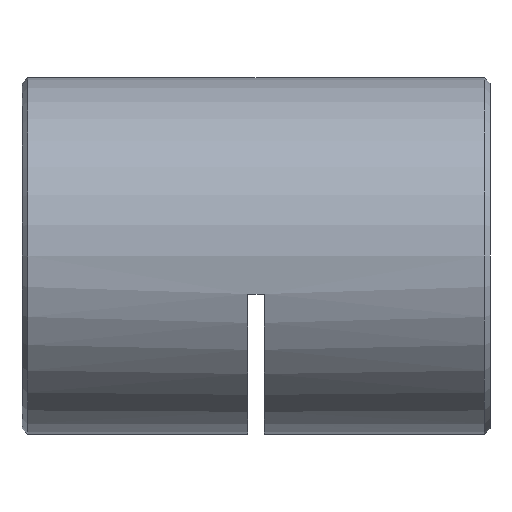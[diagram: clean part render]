
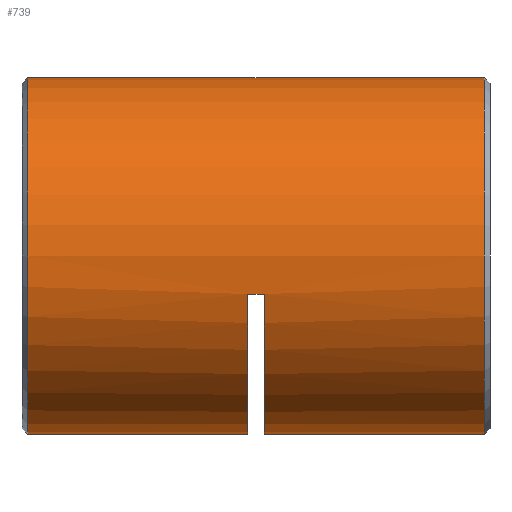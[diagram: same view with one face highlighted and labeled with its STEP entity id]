
A CAD part, left-side view. The second image highlights one B-rep face of the part: STEP entity #739.
In plain terms, the highlighted cylindrical face has radius 16 mm (diameter 32 mm), a partial arc.
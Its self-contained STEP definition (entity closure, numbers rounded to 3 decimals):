
#172 = FACE_OUTER_BOUND ( 'NONE', #2926, .T. ) ;
#244 = CARTESIAN_POINT ( 'NONE',  ( 0., 22., -16. ) ) ;
#276 = ORIENTED_EDGE ( 'NONE', *, *, #5539, .T. ) ;
#283 = DIRECTION ( 'NONE',  ( 0., -1., 0. ) ) ;
#306 = VERTEX_POINT ( 'NONE', #1523 ) ;
#535 = AXIS2_PLACEMENT_3D ( 'NONE', #6163, #1756, #4742 ) ;
#675 = CARTESIAN_POINT ( 'NONE',  ( 0., 41.75, -16. ) ) ;
#705 = ORIENTED_EDGE ( 'NONE', *, *, #2512, .T. ) ;
#711 = AXIS2_PLACEMENT_3D ( 'NONE', #6032, #1124, #3063 ) ;
#734 = DIRECTION ( 'NONE',  ( 0., 0., -1. ) ) ;
#739 = ADVANCED_FACE ( 'NONE', ( #172 ), #6175, .T. ) ;
#781 = CARTESIAN_POINT ( 'NONE',  ( 0., 42.5, -16. ) ) ;
#807 = VERTEX_POINT ( 'NONE', #2455 ) ;
#902 = ORIENTED_EDGE ( 'NONE', *, *, #5451, .T. ) ;
#944 = DIRECTION ( 'NONE',  ( 0., -1., 0. ) ) ;
#969 = DIRECTION ( 'NONE',  ( 0., 0., -1. ) ) ;
#1023 = ORIENTED_EDGE ( 'NONE', *, *, #3494, .F. ) ;
#1055 = AXIS2_PLACEMENT_3D ( 'NONE', #5127, #283, #734 ) ;
#1084 = CARTESIAN_POINT ( 'NONE',  ( -15.632, 22., -3.413 ) ) ;
#1124 = DIRECTION ( 'NONE',  ( 0., -1., 0. ) ) ;
#1158 = CARTESIAN_POINT ( 'NONE',  ( -15.632, 21.25, -3.413 ) ) ;
#1248 = DIRECTION ( 'NONE',  ( 0., -1., 0. ) ) ;
#1338 = LINE ( 'NONE', #1158, #2840 ) ;
#1523 = CARTESIAN_POINT ( 'NONE',  ( -15.632, 20.5, -3.413 ) ) ;
#1571 = CARTESIAN_POINT ( 'NONE',  ( 0., 41.75, 0. ) ) ;
#1686 = DIRECTION ( 'NONE',  ( 0., -1., 0. ) ) ;
#1756 = DIRECTION ( 'NONE',  ( 0., 1., 0. ) ) ;
#1999 = VERTEX_POINT ( 'NONE', #5912 ) ;
#2045 = CARTESIAN_POINT ( 'NONE',  ( 0., 41.75, 16. ) ) ;
#2062 = ORIENTED_EDGE ( 'NONE', *, *, #5653, .T. ) ;
#2090 = CARTESIAN_POINT ( 'NONE',  ( 0., 20.5, -16. ) ) ;
#2103 = DIRECTION ( 'NONE',  ( 0., 0., -1. ) ) ;
#2455 = CARTESIAN_POINT ( 'NONE',  ( 0., 0.75, 16. ) ) ;
#2512 = EDGE_CURVE ( 'NONE', #1999, #807, #3079, .T. ) ;
#2680 = AXIS2_PLACEMENT_3D ( 'NONE', #1571, #3560, #2103 ) ;
#2771 = CARTESIAN_POINT ( 'NONE',  ( 0., 42.5, 16. ) ) ;
#2840 = VECTOR ( 'NONE', #1686, 1000. ) ;
#2926 = EDGE_LOOP ( 'NONE', ( #1023, #902, #276, #4817, #4936, #3913, #2062, #705 ) ) ;
#2951 = EDGE_CURVE ( 'NONE', #306, #4688, #5983, .T. ) ;
#3063 = DIRECTION ( 'NONE',  ( 0., 0., -1. ) ) ;
#3079 = CIRCLE ( 'NONE', #535, 16. ) ;
#3346 = CARTESIAN_POINT ( 'NONE',  ( 0., 42.5, -16. ) ) ;
#3494 = EDGE_CURVE ( 'NONE', #4826, #807, #4882, .T. ) ;
#3539 = VECTOR ( 'NONE', #5825, 1000. ) ;
#3560 = DIRECTION ( 'NONE',  ( 0., -1., 0. ) ) ;
#3617 = VECTOR ( 'NONE', #5617, 1000. ) ;
#3913 = ORIENTED_EDGE ( 'NONE', *, *, #2951, .T. ) ;
#3946 = CARTESIAN_POINT ( 'NONE',  ( 0., 42.5, 0. ) ) ;
#4005 = CIRCLE ( 'NONE', #2680, 16. ) ;
#4043 = AXIS2_PLACEMENT_3D ( 'NONE', #3946, #944, #969 ) ;
#4366 = LINE ( 'NONE', #781, #5501 ) ;
#4688 = VERTEX_POINT ( 'NONE', #2090 ) ;
#4702 = VERTEX_POINT ( 'NONE', #1084 ) ;
#4742 = DIRECTION ( 'NONE',  ( 0., 0., 1. ) ) ;
#4804 = LINE ( 'NONE', #3346, #3539 ) ;
#4817 = ORIENTED_EDGE ( 'NONE', *, *, #5384, .F. ) ;
#4826 = VERTEX_POINT ( 'NONE', #2045 ) ;
#4858 = VERTEX_POINT ( 'NONE', #675 ) ;
#4882 = LINE ( 'NONE', #2771, #3617 ) ;
#4936 = ORIENTED_EDGE ( 'NONE', *, *, #5943, .T. ) ;
#5127 = CARTESIAN_POINT ( 'NONE',  ( 0., 20.5, 0. ) ) ;
#5384 = EDGE_CURVE ( 'NONE', #4702, #5526, #6364, .T. ) ;
#5451 = EDGE_CURVE ( 'NONE', #4826, #4858, #4005, .T. ) ;
#5501 = VECTOR ( 'NONE', #1248, 1000. ) ;
#5526 = VERTEX_POINT ( 'NONE', #244 ) ;
#5539 = EDGE_CURVE ( 'NONE', #4858, #5526, #4366, .T. ) ;
#5617 = DIRECTION ( 'NONE',  ( 0., -1., 0. ) ) ;
#5653 = EDGE_CURVE ( 'NONE', #4688, #1999, #4804, .T. ) ;
#5825 = DIRECTION ( 'NONE',  ( 0., -1., 0. ) ) ;
#5912 = CARTESIAN_POINT ( 'NONE',  ( 0., 0.75, -16. ) ) ;
#5943 = EDGE_CURVE ( 'NONE', #4702, #306, #1338, .T. ) ;
#5983 = CIRCLE ( 'NONE', #1055, 16. ) ;
#6032 = CARTESIAN_POINT ( 'NONE',  ( 0., 22., 0. ) ) ;
#6163 = CARTESIAN_POINT ( 'NONE',  ( 0., 0.75, 0. ) ) ;
#6175 = CYLINDRICAL_SURFACE ( 'NONE', #4043, 16. ) ;
#6364 = CIRCLE ( 'NONE', #711, 16. ) ;
